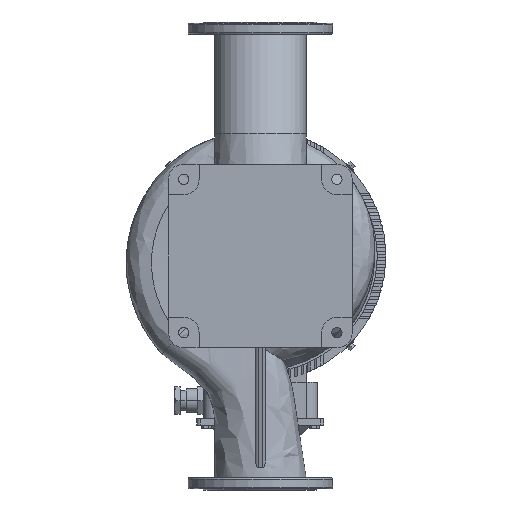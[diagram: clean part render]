
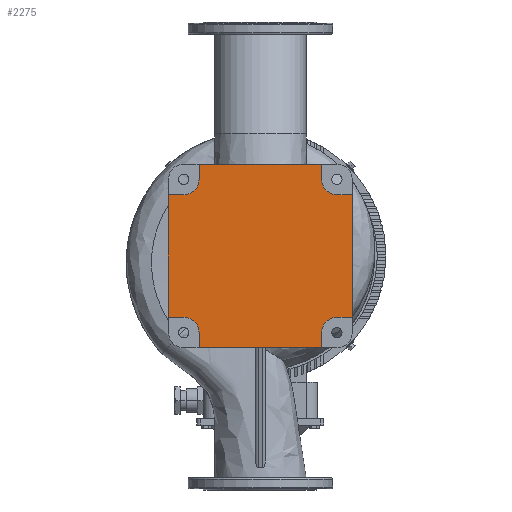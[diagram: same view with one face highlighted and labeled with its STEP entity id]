
A CAD part, front view. The second image highlights one B-rep face of the part: STEP entity #2275.
In plain terms, the highlighted planar face has unit normal (0, -1, 0).
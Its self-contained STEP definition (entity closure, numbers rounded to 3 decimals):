
#1366=PLANE('',#31916);
#2275=ADVANCED_FACE('',(#4712),#1366,.F.);
#4712=FACE_OUTER_BOUND('',#6505,.T.);
#6505=EDGE_LOOP('',(#14343,#14344,#14345,#14346,#14347,#14348,#14349,#14350,
#14351,#14352,#14353,#14354,#14355,#14356,#14357,#14358));
#8688=LINE('',#53762,#10405);
#8696=LINE('',#53780,#10413);
#8704=LINE('',#53800,#10421);
#8712=LINE('',#53817,#10429);
#8718=LINE('',#53833,#10435);
#8719=LINE('',#53835,#10436);
#8722=LINE('',#53843,#10439);
#8723=LINE('',#53845,#10440);
#8726=LINE('',#53853,#10443);
#8727=LINE('',#53855,#10444);
#8730=LINE('',#53863,#10447);
#8731=LINE('',#53865,#10448);
#10405=VECTOR('',#36242,1.);
#10413=VECTOR('',#36256,1.);
#10421=VECTOR('',#36274,1.);
#10429=VECTOR('',#36292,1.);
#10435=VECTOR('',#36308,1.);
#10436=VECTOR('',#36311,1.);
#10439=VECTOR('',#36320,1.);
#10440=VECTOR('',#36323,1.);
#10443=VECTOR('',#36332,1.);
#10444=VECTOR('',#36335,1.);
#10447=VECTOR('',#36344,1.);
#10448=VECTOR('',#36347,1.);
#14343=ORIENTED_EDGE('',*,*,#25806,.T.);
#14344=ORIENTED_EDGE('',*,*,#25824,.T.);
#14345=ORIENTED_EDGE('',*,*,#25771,.T.);
#14346=ORIENTED_EDGE('',*,*,#25823,.T.);
#14347=ORIENTED_EDGE('',*,*,#25821,.T.);
#14348=ORIENTED_EDGE('',*,*,#25819,.T.);
#14349=ORIENTED_EDGE('',*,*,#25780,.T.);
#14350=ORIENTED_EDGE('',*,*,#25818,.T.);
#14351=ORIENTED_EDGE('',*,*,#25816,.T.);
#14352=ORIENTED_EDGE('',*,*,#25814,.T.);
#14353=ORIENTED_EDGE('',*,*,#25800,.T.);
#14354=ORIENTED_EDGE('',*,*,#25813,.T.);
#14355=ORIENTED_EDGE('',*,*,#25811,.T.);
#14356=ORIENTED_EDGE('',*,*,#25809,.T.);
#14357=ORIENTED_EDGE('',*,*,#25790,.T.);
#14358=ORIENTED_EDGE('',*,*,#25808,.T.);
#22664=VERTEX_POINT('',#53761);
#22665=VERTEX_POINT('',#53763);
#22671=VERTEX_POINT('',#53779);
#22672=VERTEX_POINT('',#53781);
#22677=VERTEX_POINT('',#53798);
#22679=VERTEX_POINT('',#53801);
#22682=VERTEX_POINT('',#53816);
#22683=VERTEX_POINT('',#53818);
#22686=VERTEX_POINT('',#53828);
#22687=VERTEX_POINT('',#53830);
#22688=VERTEX_POINT('',#53836);
#22689=VERTEX_POINT('',#53840);
#22690=VERTEX_POINT('',#53846);
#22691=VERTEX_POINT('',#53850);
#22692=VERTEX_POINT('',#53856);
#22693=VERTEX_POINT('',#53860);
#25771=EDGE_CURVE('',#22665,#22664,#8688,.T.);
#25780=EDGE_CURVE('',#22672,#22671,#8696,.T.);
#25790=EDGE_CURVE('',#22679,#22677,#8704,.T.);
#25800=EDGE_CURVE('',#22683,#22682,#8712,.T.);
#25806=EDGE_CURVE('',#22687,#22686,#29969,.T.);
#25808=EDGE_CURVE('',#22677,#22687,#8718,.T.);
#25809=EDGE_CURVE('',#22688,#22679,#8719,.T.);
#25811=EDGE_CURVE('',#22689,#22688,#29970,.T.);
#25813=EDGE_CURVE('',#22682,#22689,#8722,.T.);
#25814=EDGE_CURVE('',#22690,#22683,#8723,.T.);
#25816=EDGE_CURVE('',#22691,#22690,#29971,.T.);
#25818=EDGE_CURVE('',#22671,#22691,#8726,.T.);
#25819=EDGE_CURVE('',#22692,#22672,#8727,.T.);
#25821=EDGE_CURVE('',#22693,#22692,#29972,.T.);
#25823=EDGE_CURVE('',#22664,#22693,#8730,.T.);
#25824=EDGE_CURVE('',#22686,#22665,#8731,.T.);
#29969=CIRCLE('',#31900,36.);
#29970=CIRCLE('',#31904,36.);
#29971=CIRCLE('',#31908,36.);
#29972=CIRCLE('',#31912,36.);
#31900=AXIS2_PLACEMENT_3D('',#53829,#36303,#36304);
#31904=AXIS2_PLACEMENT_3D('',#53839,#36315,#36316);
#31908=AXIS2_PLACEMENT_3D('',#53849,#36327,#36328);
#31912=AXIS2_PLACEMENT_3D('',#53859,#36339,#36340);
#31916=AXIS2_PLACEMENT_3D('',#53867,#36350,#36351);
#36242=DIRECTION('',(1.,0.,0.));
#36256=DIRECTION('',(0.,0.,1.));
#36274=DIRECTION('',(0.,0.,-1.));
#36292=DIRECTION('',(-1.,0.,0.));
#36303=DIRECTION('',(0.,1.,0.));
#36304=DIRECTION('',(0.,0.,1.));
#36308=DIRECTION('',(1.,0.,0.));
#36311=DIRECTION('',(-1.,0.,0.));
#36315=DIRECTION('',(0.,1.,0.));
#36316=DIRECTION('',(0.,0.,1.));
#36320=DIRECTION('',(0.,0.,-1.));
#36323=DIRECTION('',(0.,0.,1.));
#36327=DIRECTION('',(0.,1.,0.));
#36328=DIRECTION('',(0.,0.,1.));
#36332=DIRECTION('',(-1.,0.,0.));
#36335=DIRECTION('',(1.,0.,0.));
#36339=DIRECTION('',(0.,1.,0.));
#36340=DIRECTION('',(0.,0.,1.));
#36344=DIRECTION('',(0.,0.,1.));
#36347=DIRECTION('',(0.,0.,-1.));
#36350=DIRECTION('',(0.,1.,0.));
#36351=DIRECTION('',(0.,0.,-1.));
#53761=CARTESIAN_POINT('',(144.,-265.,-216.));
#53762=CARTESIAN_POINT('',(144.,-265.,-216.));
#53763=CARTESIAN_POINT('',(-144.,-265.,-216.));
#53779=CARTESIAN_POINT('',(216.,-265.,144.));
#53780=CARTESIAN_POINT('',(216.,-265.,144.));
#53781=CARTESIAN_POINT('',(216.,-265.,-144.));
#53798=CARTESIAN_POINT('',(-216.,-265.,-144.));
#53800=CARTESIAN_POINT('',(-216.,-265.,-144.));
#53801=CARTESIAN_POINT('',(-216.,-265.,144.));
#53816=CARTESIAN_POINT('',(-144.,-265.,216.));
#53817=CARTESIAN_POINT('',(-144.,-265.,216.));
#53818=CARTESIAN_POINT('',(144.,-265.,216.));
#53828=CARTESIAN_POINT('',(-144.,-265.,-180.));
#53829=CARTESIAN_POINT('',(-180.,-265.,-180.));
#53830=CARTESIAN_POINT('',(-180.,-265.,-144.));
#53833=CARTESIAN_POINT('',(-180.,-265.,-144.));
#53835=CARTESIAN_POINT('',(-180.,-265.,144.));
#53836=CARTESIAN_POINT('',(-180.,-265.,144.));
#53839=CARTESIAN_POINT('',(-180.,-265.,180.));
#53840=CARTESIAN_POINT('',(-144.,-265.,180.));
#53843=CARTESIAN_POINT('',(-144.,-265.,180.));
#53845=CARTESIAN_POINT('',(144.,-265.,180.));
#53846=CARTESIAN_POINT('',(144.,-265.,180.));
#53849=CARTESIAN_POINT('',(180.,-265.,180.));
#53850=CARTESIAN_POINT('',(180.,-265.,144.));
#53853=CARTESIAN_POINT('',(180.,-265.,144.));
#53855=CARTESIAN_POINT('',(180.,-265.,-144.));
#53856=CARTESIAN_POINT('',(180.,-265.,-144.));
#53859=CARTESIAN_POINT('',(180.,-265.,-180.));
#53860=CARTESIAN_POINT('',(144.,-265.,-180.));
#53863=CARTESIAN_POINT('',(144.,-265.,-180.));
#53865=CARTESIAN_POINT('',(-144.,-265.,-180.));
#53867=CARTESIAN_POINT('',(-180.,-265.,-180.));
